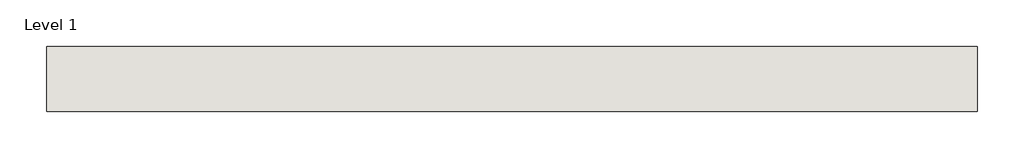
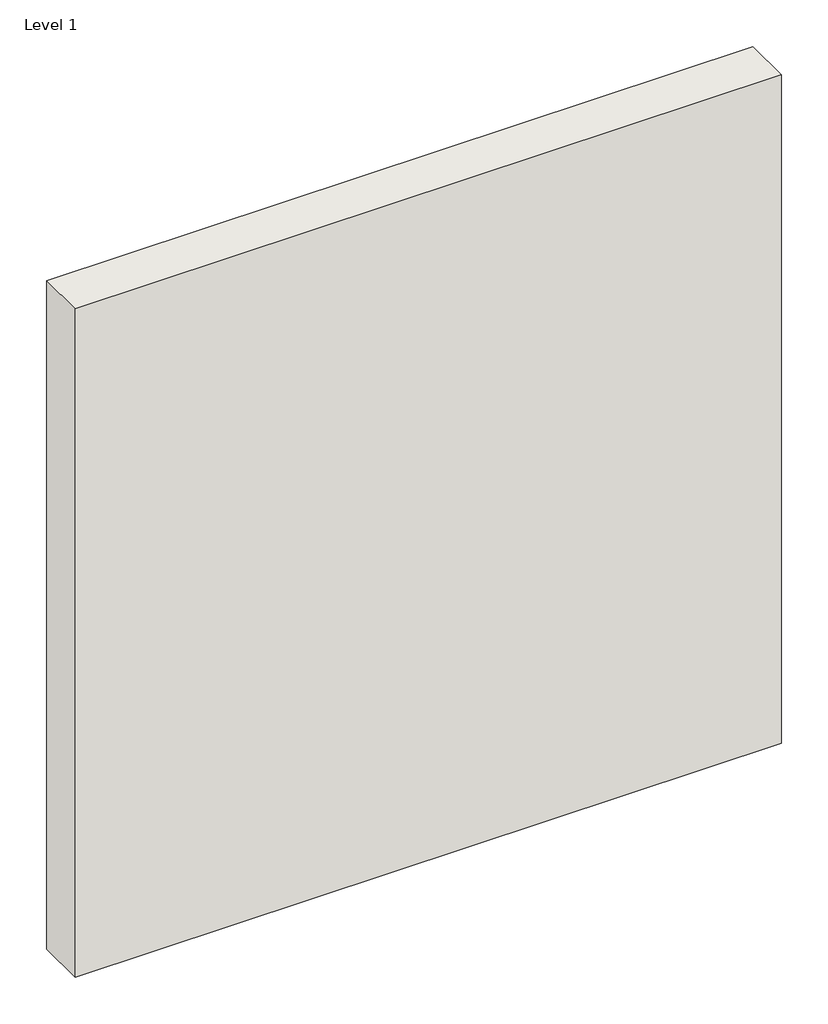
# One storey: 1 wall.
"""IFC4 building model written with IfcOpenShell, lengths in millimetres."""

from ifc_helpers import new_model, si_unit, origin, origin_with_axes, place, context, project, spatial, polyline, outline, extrude, element, save

model = new_model("IFC4")

# Units and contexts
model_context = context("Model", 3, world=origin())
ifc_project = project(units=[si_unit("LENGTHUNIT", "METRE", prefix="MILLI")], contexts=[model_context])

# Site, building, storey
site = spatial("IfcSite", under=ifc_project)
building = spatial("IfcBuilding", under=site)
storey = spatial("IfcBuildingStorey", under=building, Name="Level 1", Elevation=0.0)

# Wall
placement = place(None, origin())
element("IfcWall", 1, ObjectType="GYPTEC-REVESTIMENTO 70 GYPCORK 13-40", at=placement, inside=storey, context=model_context, shape_type="SweptSolid", body=[
    extrude(outline(polyline([(1000.0, 37.75), (0.0, 37.75), (0.0, 107.75), (1000.0, 107.75), (1000.0, 37.75)])), origin_with_axes(), (0.0, 0.0, 1.0), 1000.0),
])

save(model, "model.ifc")
